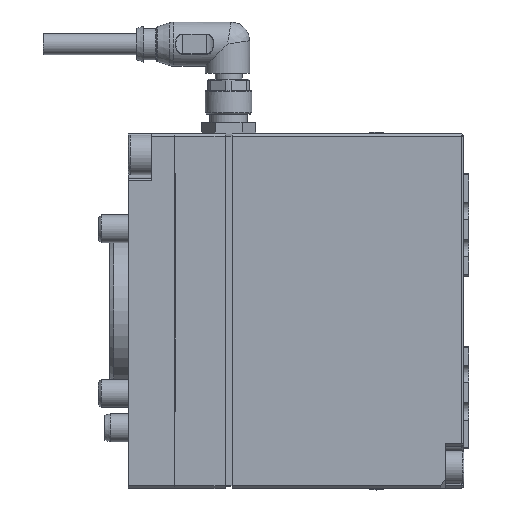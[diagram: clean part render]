
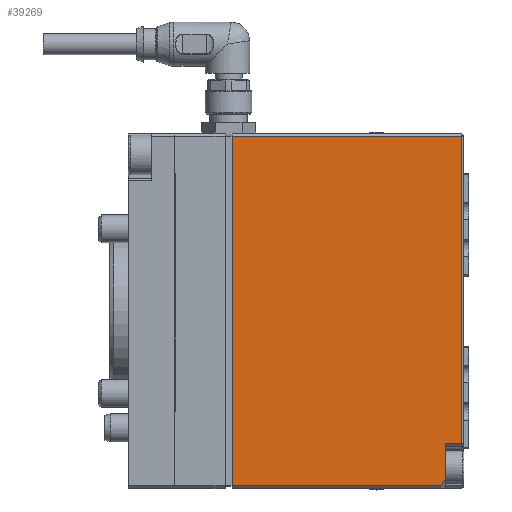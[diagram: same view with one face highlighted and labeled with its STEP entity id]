
A CAD part, top view. The second image highlights one B-rep face of the part: STEP entity #39269.
In plain terms, the highlighted planar face has unit normal (0, 0, 1).
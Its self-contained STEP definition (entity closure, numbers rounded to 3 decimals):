
#513=CARTESIAN_POINT('',(37.5,12.25,30.));
#514=VERTEX_POINT('',#513);
#521=CARTESIAN_POINT('',(-37.5,12.25,30.0));
#522=VERTEX_POINT('',#521);
#523=CARTESIAN_POINT('',(-37.5,12.25,30.));
#524=DIRECTION('',(1.0,0.0,0.0));
#525=VECTOR('',#524,75.0);
#526=LINE('',#523,#525);
#527=EDGE_CURVE('',#522,#514,#526,.T.);
#986=CARTESIAN_POINT('',(-37.5,61.5,30.0));
#987=VERTEX_POINT('',#986);
#988=CARTESIAN_POINT('',(-37.5,12.25,30.0));
#989=DIRECTION('',(0.0,1.0,0.0));
#990=VECTOR('',#989,49.25);
#991=LINE('',#988,#990);
#992=EDGE_CURVE('',#522,#987,#991,.T.);
#39196=CARTESIAN_POINT('',(36.086,58.,30.));
#39197=VERTEX_POINT('',#39196);
#39198=CARTESIAN_POINT('',(37.5,57.,30.));
#39199=VERTEX_POINT('',#39198);
#39200=CARTESIAN_POINT('',(36.086,58.,30.));
#39201=DIRECTION('',(0.816,-0.577,0.0));
#39202=VECTOR('',#39201,1.732);
#39203=LINE('',#39200,#39202);
#39204=EDGE_CURVE('',#39197,#39199,#39203,.T.);
#39231=CARTESIAN_POINT('',(38.0,0.0,30.));
#39232=DIRECTION('',(0.0,0.0,1.0));
#39233=DIRECTION('',(1.0,0.0,0.0));
#39234=AXIS2_PLACEMENT_3D('',#39231,#39232,#39233);
#39235=PLANE('',#39234);
#39236=ORIENTED_EDGE('',*,*,#527,.T.);
#39237=CARTESIAN_POINT('',(37.5,57.,30.));
#39238=DIRECTION('',(0.0,-1.0,0.0));
#39239=VECTOR('',#39238,44.75);
#39240=LINE('',#39237,#39239);
#39241=EDGE_CURVE('',#39199,#514,#39240,.T.);
#39242=ORIENTED_EDGE('',*,*,#39241,.F.);
#39243=ORIENTED_EDGE('',*,*,#39204,.F.);
#39244=CARTESIAN_POINT('',(28.5,58.,30.));
#39245=VERTEX_POINT('',#39244);
#39246=CARTESIAN_POINT('',(36.086,58.,30.));
#39247=DIRECTION('',(-1.0,0.0,0.0));
#39248=VECTOR('',#39247,7.586);
#39249=LINE('',#39246,#39248);
#39250=EDGE_CURVE('',#39197,#39245,#39249,.T.);
#39251=ORIENTED_EDGE('',*,*,#39250,.T.);
#39252=CARTESIAN_POINT('',(28.5,61.5,30.));
#39253=VERTEX_POINT('',#39252);
#39254=CARTESIAN_POINT('',(28.5,61.5,30.));
#39255=DIRECTION('',(0.0,-1.0,0.0));
#39256=VECTOR('',#39255,3.5);
#39257=LINE('',#39254,#39256);
#39258=EDGE_CURVE('',#39253,#39245,#39257,.T.);
#39259=ORIENTED_EDGE('',*,*,#39258,.F.);
#39260=CARTESIAN_POINT('',(-37.5,61.5,30.));
#39261=DIRECTION('',(1.0,0.0,0.0));
#39262=VECTOR('',#39261,66.0);
#39263=LINE('',#39260,#39262);
#39264=EDGE_CURVE('',#987,#39253,#39263,.T.);
#39265=ORIENTED_EDGE('',*,*,#39264,.F.);
#39266=ORIENTED_EDGE('',*,*,#992,.F.);
#39267=EDGE_LOOP('',(#39236,#39242,#39243,#39251,#39259,#39265,#39266));
#39268=FACE_OUTER_BOUND('',#39267,.T.);
#39269=ADVANCED_FACE('',(#39268),#39235,.T.);
